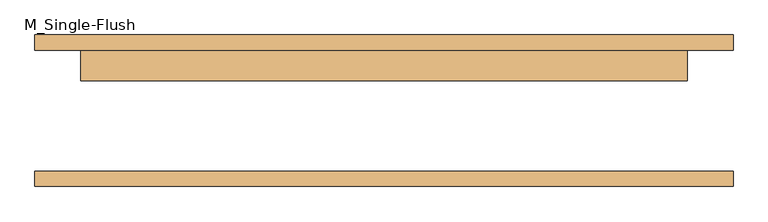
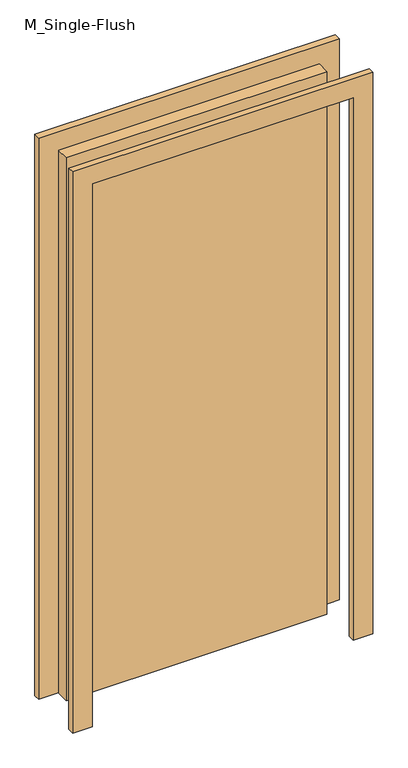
"""IFC4 building model written with IfcOpenShell, lengths in millimetres: door geometry, M_Single-Flush : ب 1."""

from ifc_helpers import new_model, si_unit, frame, origin, origin_with_axes, place, context, project, spatial, polyline, outline, extrude, source, transform, mapped, element, save


def m_single_flush_5dd7b505(model_context):
    return source(origin(), model_context, "Body", "SweptSolid", [
        extrude(outline(polyline([(2276.0, -576.0), (0.0, -576.0), (0.0, -500.0), (2200.0, -500.0), (2200.0, 500.0), (0.0, 500.0), (0.0, 576.0), (2276.0, 576.0), (2276.0, -576.0)])), frame((0.0, 100.0, 0.0), z_axis=(0.0, 1.0, 0.0), x_axis=(0.0, 0.0, 1.0)), (0.0, 0.0, 1.0), 25.0),
        extrude(outline(polyline([(2276.0, 576.0), (2276.0, -576.0), (0.0, -576.0), (0.0, -500.0), (2200.0, -500.0), (2200.0, 500.0), (0.0, 500.0), (0.0, 576.0), (2276.0, 576.0)])), frame((0.0, -125.0, 0.0), z_axis=(0.0, 1.0, 0.0), x_axis=(0.0, 0.0, 1.0)), (0.0, 0.0, 1.0), 25.0),
        extrude(outline(polyline([(500.0, 49.0), (-500.0, 49.0), (-500.0, 100.0), (500.0, 100.0), (500.0, 49.0)])), origin_with_axes(), (0.0, 0.0, 1.0), 2200.0),
    ])


if __name__ == "__main__":
    model = new_model("IFC4")
    model_context = context("Model", 3, world=origin())
    ifc_project = project(units=[si_unit("LENGTHUNIT", "METRE", prefix="MILLI")], contexts=[model_context])
    site = spatial("IfcSite", under=ifc_project)
    building = spatial("IfcBuilding", under=site)
    placement = place(None, origin())
    m_single_flush_shape = m_single_flush_5dd7b505(model_context)
    element("IfcDoor", 1, ObjectType="M_Single-Flush : ب 1", at=placement, inside=building, context=model_context, shape_type="MappedRepresentation", body=[
        mapped(m_single_flush_shape, transform((0.0, 0.0, 0.0), x_axis=(1.0, 0.0, 0.0), y_axis=(0.0, 1.0, 0.0), z_axis=(0.0, 0.0, 1.0))),
    ])
    save(model, "model.ifc")
